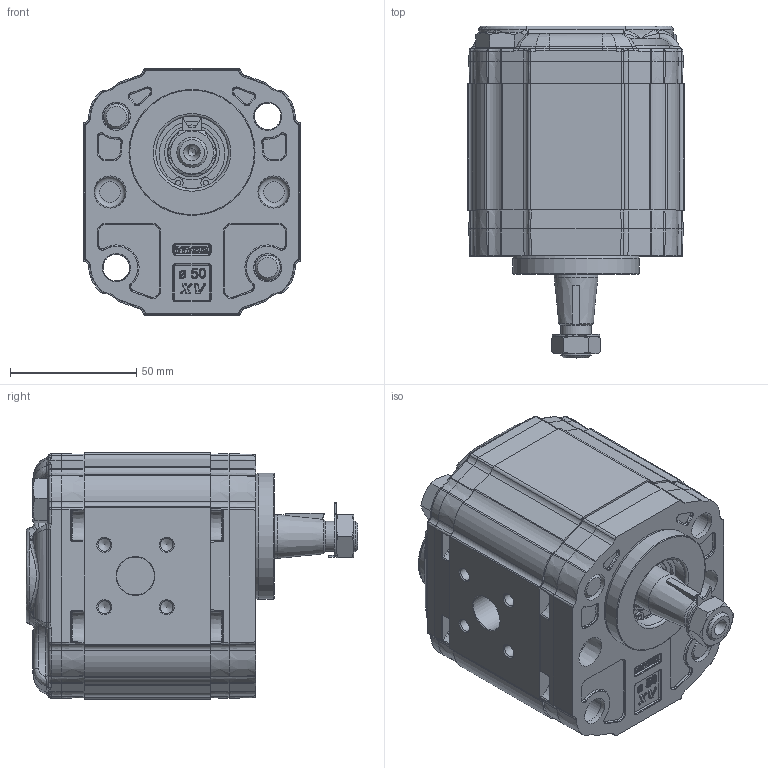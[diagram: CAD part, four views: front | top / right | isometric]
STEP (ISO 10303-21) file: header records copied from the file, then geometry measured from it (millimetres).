
FILE_DESCRIPTION(/* description */ ('Unknown'),/* implementation_level */ '2;1');
FILE_NAME(/* name */ 'X2R4307FRRF',/* time_stamp */ '2026-06-03T18:20:34+02:00',/* author */ ('Unknown'),/* organization */ ('Unknown'),/* preprocessor_version */ 'ST-DEVELOPER v16.7',/* originating_system */ 'Solid Edge',/* authorisation */ 'Unknown');
FILE_SCHEMA (('AUTOMOTIVE_DESIGN {1 0 10303 214 3 1 1}'));
Products named in the file (5): X2R4307FRRF; X2R07; 2F; X2RRH50; XR210-F
Assembly tree (4 placements, depth 2):
  X2R4307FRRF
    X2R07
    2F
    X2RRH50
    XR210-F
Bounding box: 86 x 131.65 x 98 mm (x, y, z)
Volume: 636553.2 mm3; surface area: 100363.4 mm2
Topology: 4 solids, 8 shells, 2512 faces, 6129 edges, 3698 vertices
Faces by surface type: cylinder 717, bspline 627, plane 620, cone 287, torus 201, sphere 60
Full cylindrical faces by diameter (mm): 2 x2, 5 x8, 10 x6, 10.5 x8, 11 x2, 12 x2, 12.5 x1, 15 x2, 16 x2, 17.42 x1, 17.48 x2, 18.724 x1, 20.595 x1, 21.741 x1, 25 x1, 25.834 x1, 28.56 x1, 28.57 x1, 28.8 x1, 30.5 x1, 50 x1
Entity records: 116477 total; most frequent: CARTESIAN_POINT 45586, ORIENTED_EDGE 11766, DIRECTION 9661, EDGE_CURVE 5883, AXIS2_PLACEMENT_3D 3813, VERTEX_POINT 3640, FACE_BOUND 2789, EDGE_LOOP 2779
